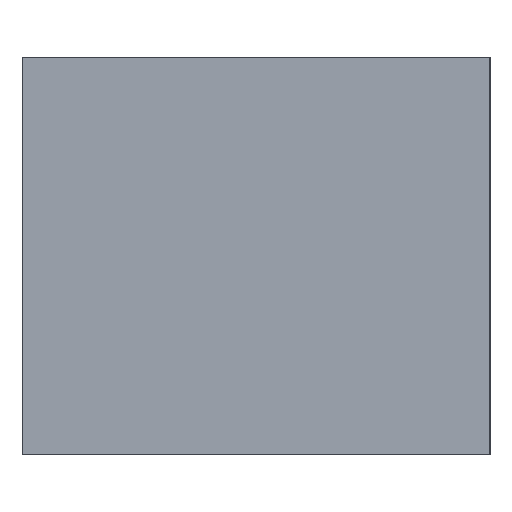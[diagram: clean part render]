
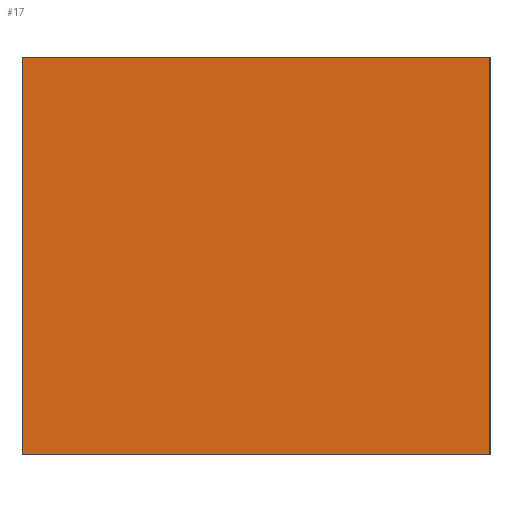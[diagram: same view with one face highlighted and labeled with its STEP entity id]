
A CAD part, left-side view. The second image highlights one B-rep face of the part: STEP entity #17.
In plain terms, the highlighted planar face has unit normal (-1, 0, 0).
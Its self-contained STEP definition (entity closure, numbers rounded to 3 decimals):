
#17 = ADVANCED_FACE('',(#18),#32,.F.);
#18 = FACE_BOUND('',#19,.F.);
#19 = EDGE_LOOP('',(#20,#55,#83,#111));
#20 = ORIENTED_EDGE('',*,*,#21,.F.);
#21 = EDGE_CURVE('',#22,#24,#26,.T.);
#22 = VERTEX_POINT('',#23);
#23 = CARTESIAN_POINT('',(-12.55,1.45,21.89));
#24 = VERTEX_POINT('',#25);
#25 = CARTESIAN_POINT('',(-12.55,1.45,25.5));
#26 = SURFACE_CURVE('',#27,(#31,#43),.PCURVE_S1.);
#27 = LINE('',#28,#29);
#28 = CARTESIAN_POINT('',(-12.55,1.45,21.89));
#29 = VECTOR('',#30,1.);
#30 = DIRECTION('',(0.,0.,1.));
#31 = PCURVE('',#32,#37);
#32 = PLANE('',#33);
#33 = AXIS2_PLACEMENT_3D('',#34,#35,#36);
#34 = CARTESIAN_POINT('',(-12.55,1.45,21.89));
#35 = DIRECTION('',(1.,0.,-0.));
#36 = DIRECTION('',(0.,0.,1.));
#37 = DEFINITIONAL_REPRESENTATION('',(#38),#42);
#38 = LINE('',#39,#40);
#39 = CARTESIAN_POINT('',(0.,0.));
#40 = VECTOR('',#41,1.);
#41 = DIRECTION('',(1.,0.));
#42 = ( GEOMETRIC_REPRESENTATION_CONTEXT(2) 
PARAMETRIC_REPRESENTATION_CONTEXT() REPRESENTATION_CONTEXT('2D SPACE',''
  ) );
#43 = PCURVE('',#44,#49);
#44 = PLANE('',#45);
#45 = AXIS2_PLACEMENT_3D('',#46,#47,#48);
#46 = CARTESIAN_POINT('',(-12.55,1.45,21.89));
#47 = DIRECTION('',(-0.,1.,0.));
#48 = DIRECTION('',(0.,0.,1.));
#49 = DEFINITIONAL_REPRESENTATION('',(#50),#54);
#50 = LINE('',#51,#52);
#51 = CARTESIAN_POINT('',(0.,0.));
#52 = VECTOR('',#53,1.);
#53 = DIRECTION('',(1.,0.));
#54 = ( GEOMETRIC_REPRESENTATION_CONTEXT(2) 
PARAMETRIC_REPRESENTATION_CONTEXT() REPRESENTATION_CONTEXT('2D SPACE',''
  ) );
#55 = ORIENTED_EDGE('',*,*,#56,.T.);
#56 = EDGE_CURVE('',#22,#57,#59,.T.);
#57 = VERTEX_POINT('',#58);
#58 = CARTESIAN_POINT('',(-12.55,5.7,21.89));
#59 = SURFACE_CURVE('',#60,(#64,#71),.PCURVE_S1.);
#60 = LINE('',#61,#62);
#61 = CARTESIAN_POINT('',(-12.55,1.45,21.89));
#62 = VECTOR('',#63,1.);
#63 = DIRECTION('',(-0.,1.,0.));
#64 = PCURVE('',#32,#65);
#65 = DEFINITIONAL_REPRESENTATION('',(#66),#70);
#66 = LINE('',#67,#68);
#67 = CARTESIAN_POINT('',(0.,0.));
#68 = VECTOR('',#69,1.);
#69 = DIRECTION('',(0.,-1.));
#70 = ( GEOMETRIC_REPRESENTATION_CONTEXT(2) 
PARAMETRIC_REPRESENTATION_CONTEXT() REPRESENTATION_CONTEXT('2D SPACE',''
  ) );
#71 = PCURVE('',#72,#77);
#72 = PLANE('',#73);
#73 = AXIS2_PLACEMENT_3D('',#74,#75,#76);
#74 = CARTESIAN_POINT('',(-12.55,1.45,21.89));
#75 = DIRECTION('',(0.,0.,1.));
#76 = DIRECTION('',(1.,0.,-0.));
#77 = DEFINITIONAL_REPRESENTATION('',(#78),#82);
#78 = LINE('',#79,#80);
#79 = CARTESIAN_POINT('',(0.,0.));
#80 = VECTOR('',#81,1.);
#81 = DIRECTION('',(0.,1.));
#82 = ( GEOMETRIC_REPRESENTATION_CONTEXT(2) 
PARAMETRIC_REPRESENTATION_CONTEXT() REPRESENTATION_CONTEXT('2D SPACE',''
  ) );
#83 = ORIENTED_EDGE('',*,*,#84,.T.);
#84 = EDGE_CURVE('',#57,#85,#87,.T.);
#85 = VERTEX_POINT('',#86);
#86 = CARTESIAN_POINT('',(-12.55,5.7,25.5));
#87 = SURFACE_CURVE('',#88,(#92,#99),.PCURVE_S1.);
#88 = LINE('',#89,#90);
#89 = CARTESIAN_POINT('',(-12.55,5.7,21.89));
#90 = VECTOR('',#91,1.);
#91 = DIRECTION('',(0.,0.,1.));
#92 = PCURVE('',#32,#93);
#93 = DEFINITIONAL_REPRESENTATION('',(#94),#98);
#94 = LINE('',#95,#96);
#95 = CARTESIAN_POINT('',(0.,-4.25));
#96 = VECTOR('',#97,1.);
#97 = DIRECTION('',(1.,0.));
#98 = ( GEOMETRIC_REPRESENTATION_CONTEXT(2) 
PARAMETRIC_REPRESENTATION_CONTEXT() REPRESENTATION_CONTEXT('2D SPACE',''
  ) );
#99 = PCURVE('',#100,#105);
#100 = PLANE('',#101);
#101 = AXIS2_PLACEMENT_3D('',#102,#103,#104);
#102 = CARTESIAN_POINT('',(-12.55,5.7,21.89));
#103 = DIRECTION('',(-0.,1.,0.));
#104 = DIRECTION('',(0.,0.,1.));
#105 = DEFINITIONAL_REPRESENTATION('',(#106),#110);
#106 = LINE('',#107,#108);
#107 = CARTESIAN_POINT('',(0.,0.));
#108 = VECTOR('',#109,1.);
#109 = DIRECTION('',(1.,0.));
#110 = ( GEOMETRIC_REPRESENTATION_CONTEXT(2) 
PARAMETRIC_REPRESENTATION_CONTEXT() REPRESENTATION_CONTEXT('2D SPACE',''
  ) );
#111 = ORIENTED_EDGE('',*,*,#112,.F.);
#112 = EDGE_CURVE('',#24,#85,#113,.T.);
#113 = SURFACE_CURVE('',#114,(#118,#125),.PCURVE_S1.);
#114 = LINE('',#115,#116);
#115 = CARTESIAN_POINT('',(-12.55,1.45,25.5));
#116 = VECTOR('',#117,1.);
#117 = DIRECTION('',(-0.,1.,0.));
#118 = PCURVE('',#32,#119);
#119 = DEFINITIONAL_REPRESENTATION('',(#120),#124);
#120 = LINE('',#121,#122);
#121 = CARTESIAN_POINT('',(3.61,0.));
#122 = VECTOR('',#123,1.);
#123 = DIRECTION('',(0.,-1.));
#124 = ( GEOMETRIC_REPRESENTATION_CONTEXT(2) 
PARAMETRIC_REPRESENTATION_CONTEXT() REPRESENTATION_CONTEXT('2D SPACE',''
  ) );
#125 = PCURVE('',#126,#131);
#126 = PLANE('',#127);
#127 = AXIS2_PLACEMENT_3D('',#128,#129,#130);
#128 = CARTESIAN_POINT('',(-12.55,1.45,25.5));
#129 = DIRECTION('',(0.,0.,1.));
#130 = DIRECTION('',(1.,0.,-0.));
#131 = DEFINITIONAL_REPRESENTATION('',(#132),#136);
#132 = LINE('',#133,#134);
#133 = CARTESIAN_POINT('',(0.,0.));
#134 = VECTOR('',#135,1.);
#135 = DIRECTION('',(0.,1.));
#136 = ( GEOMETRIC_REPRESENTATION_CONTEXT(2) 
PARAMETRIC_REPRESENTATION_CONTEXT() REPRESENTATION_CONTEXT('2D SPACE',''
  ) );
